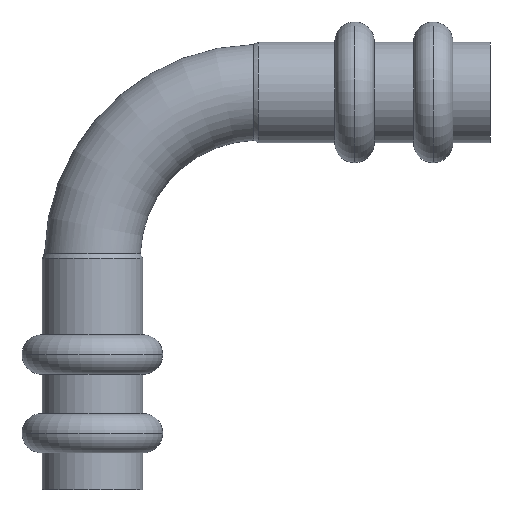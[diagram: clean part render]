
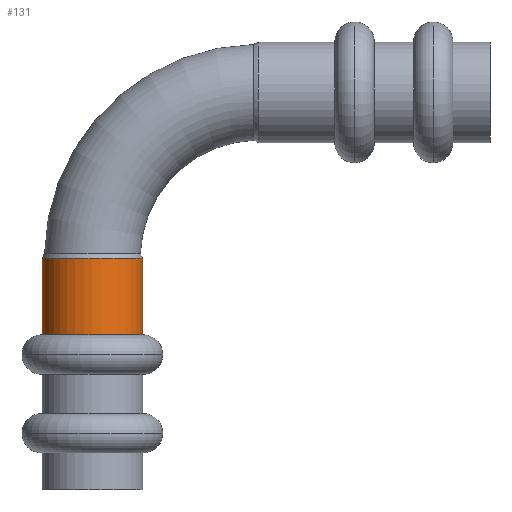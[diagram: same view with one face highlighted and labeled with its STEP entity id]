
A CAD part, front view. The second image highlights one B-rep face of the part: STEP entity #131.
In plain terms, the highlighted cylindrical face has radius 5.75 mm (diameter 11.5 mm), a partial arc.
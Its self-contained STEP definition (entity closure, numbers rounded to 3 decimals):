
#131=ADVANCED_FACE('',(#307),#308,.T.);
#307=FACE_OUTER_BOUND('',#543,.T.);
#308=CYLINDRICAL_SURFACE('',#544,5.75);
#543=EDGE_LOOP('',(#863,#864,#865,#866));
#544=AXIS2_PLACEMENT_3D('',#867,#868,#869);
#863=ORIENTED_EDGE('',*,*,#1356,.F.);
#864=ORIENTED_EDGE('',*,*,#1357,.T.);
#865=ORIENTED_EDGE('',*,*,#1358,.F.);
#866=ORIENTED_EDGE('',*,*,#1359,.F.);
#867=CARTESIAN_POINT('',(0.,0.0,22.125));
#868=DIRECTION('',(0.,0.0,-1.0));
#869=DIRECTION('',(1.0,0.0,0.));
#1356=EDGE_CURVE('',#1611,#1612,#1613,.T.);
#1357=EDGE_CURVE('',#1611,#1614,#1615,.T.);
#1358=EDGE_CURVE('',#1616,#1614,#1617,.T.);
#1359=EDGE_CURVE('',#1612,#1616,#1618,.T.);
#1611=VERTEX_POINT('',#2040);
#1612=VERTEX_POINT('',#2041);
#1613=LINE('',#2042,#2043);
#1614=VERTEX_POINT('',#2044);
#1615=CIRCLE('',#2045,5.75);
#1616=VERTEX_POINT('',#2046);
#1617=LINE('',#2047,#2048);
#1618=CIRCLE('',#2049,5.75);
#2040=CARTESIAN_POINT('',(5.75,0.,26.5));
#2041=CARTESIAN_POINT('',(5.75,0.,17.75));
#2042=CARTESIAN_POINT('',(5.75,0.,22.125));
#2043=VECTOR('',#2524,1.0);
#2044=CARTESIAN_POINT('',(-5.75,0.,26.5));
#2045=AXIS2_PLACEMENT_3D('',#2525,#2526,#2527);
#2046=CARTESIAN_POINT('',(-5.75,0.,17.75));
#2047=CARTESIAN_POINT('',(-5.75,0.,22.125));
#2048=VECTOR('',#2528,1.0);
#2049=AXIS2_PLACEMENT_3D('',#2529,#2530,#2531);
#2524=DIRECTION('',(0.,0.0,-1.0));
#2525=CARTESIAN_POINT('',(0.,0.0,26.5));
#2526=DIRECTION('',(0.,0.0,-1.0));
#2527=DIRECTION('',(1.0,0.0,0.));
#2528=DIRECTION('',(0.,-0.0,1.0));
#2529=CARTESIAN_POINT('',(0.,0.0,17.75));
#2530=DIRECTION('',(0.,0.0,-1.0));
#2531=DIRECTION('',(1.0,0.0,0.));
